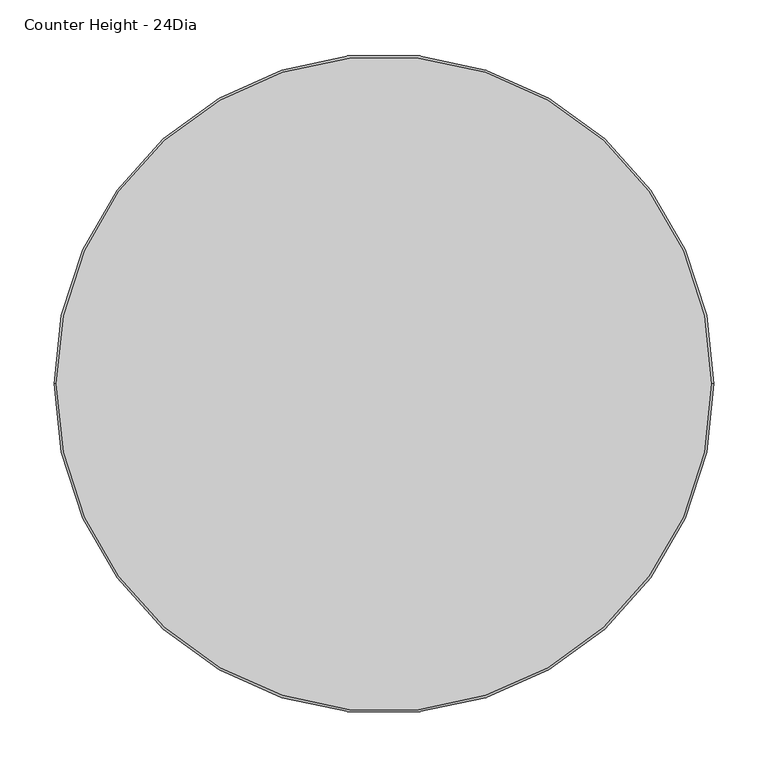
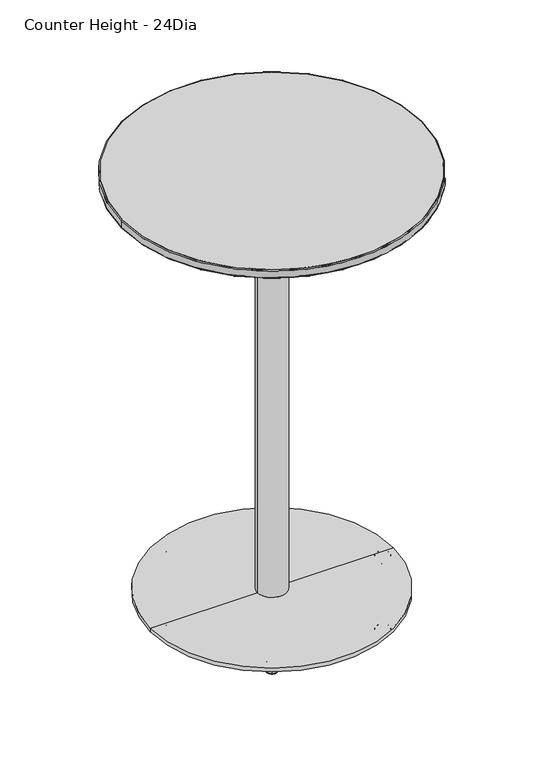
"""IFC4 building model written with IfcOpenShell, lengths in millimetres: furniture geometry, Coalesse_AM_Table_Occasional_Montara650Table_CafeHeight_Round : Counter Height - 24Dia."""

from ifc_helpers import new_model, si_unit, point, frame, origin, origin_with_axes, origin_2d, place, context, project, spatial, polyline, circle_curve, ellipse_curve, trimmed, segment, composite_curve, outline, extrude, source, transform, mapped, element, save
from ifc_brep_helpers import plane_surface, cylinder_surface, revolved_surface, advanced_brep


def counter_height_24dia_68ba56fe(model_context):
    return source(origin(), model_context, "Body", "SolidModel", [
        advanced_brep(
        [(-112.4946772, 194.8464965, 0.0), (-117.6867095, 203.8393602, 0.0), (-107.302645, 185.8536329, 0.0), (-118.0731448, 204.5086859, 0.5718943), (-106.9162096, 185.1843072, 0.5718943), (-119.6988534, 207.3244957, 11.2068005), (-105.290501, 182.3684973, 11.2068005), (-119.4053894, 206.8162011, 11.9999882), (-105.5839651, 182.8767919, 11.9999882), (-112.4946772, 194.8464965, 11.9999882)],
        [
            (0, 1),
            (1, 2, circle_curve(frame((-112.4946772, 194.8464965, 0.0), z_axis=(0.0, 0.0, -1.0), x_axis=(-0.5000000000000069, 0.8660254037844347, 0.0)), 10.3840645)),
            (2, 0),
            (2, 1, circle_curve(frame((-112.4946772, 194.8464965, 0.0), z_axis=(0.0, 0.0, -1.0), x_axis=(-0.5000000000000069, 0.8660254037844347, 0.0)), 10.3840645)),
            (1, 3, circle_curve(frame((-117.6867095, 203.8393602, 0.8081846), z_axis=(0.8660254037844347, 0.5000000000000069, 0.0), x_axis=(-0.5000000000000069, 0.8660254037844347, 0.0)), 0.8081846)),
            (3, 4, circle_curve(frame((-112.4946772, 194.8464965, 0.5718943), z_axis=(0.0, 0.0, -1.0), x_axis=(-0.5000000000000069, 0.8660254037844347, 0.0)), 11.1569353)),
            (4, 2, circle_curve(frame((-107.302645, 185.8536329, 0.8081846), z_axis=(0.866025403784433, 0.5000000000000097, 0.0), x_axis=(0.5000000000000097, -0.866025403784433, 0.0)), 0.8081846)),
            (4, 3, circle_curve(frame((-112.4946772, 194.8464965, 0.5718943), z_axis=(0.0, 0.0, -1.0), x_axis=(-0.5000000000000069, 0.8660254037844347, 0.0)), 11.1569353)),
            (3, 5),
            (5, 6, circle_curve(frame((-112.4946772, 194.8464965, 11.2068005), z_axis=(0.0, 0.0, -1.0), x_axis=(-0.5000000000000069, 0.8660254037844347, 0.0)), 14.4083524)),
            (6, 4),
            (6, 5, circle_curve(frame((-112.4946772, 194.8464965, 11.2068005), z_axis=(0.0, 0.0, -1.0), x_axis=(-0.5000000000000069, 0.8660254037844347, 0.0)), 14.4083524)),
            (5, 7, circle_curve(frame((-119.4053894, 206.8162011, 11.3862424), z_axis=(0.8660254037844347, 0.5000000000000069, 0.0), x_axis=(-0.5000000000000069, 0.8660254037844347, 0.0)), 0.6137458)),
            (7, 8, circle_curve(frame((-112.4946772, 194.8464965, 11.9999882), z_axis=(0.0, 0.0, -1.0), x_axis=(-0.5000000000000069, 0.8660254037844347, 0.0)), 13.8214243)),
            (8, 6, circle_curve(frame((-105.5839651, 182.8767919, 11.3862424), z_axis=(0.866025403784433, 0.5000000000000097, 0.0), x_axis=(0.5000000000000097, -0.866025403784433, 0.0)), 0.6137458)),
            (8, 7, circle_curve(frame((-112.4946772, 194.8464965, 11.9999882), z_axis=(0.0, 0.0, -1.0), x_axis=(-0.5000000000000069, 0.8660254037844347, 0.0)), 13.8214243)),
            (7, 9),
            (9, 8),
        ],
        [
            plane_surface(frame((-112.4946772, 194.8464965, 0.0), z_axis=(0.0, 0.0, -1.0), x_axis=(-0.5000000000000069, 0.8660254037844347, 0.0))),
            revolved_surface(trimmed(ellipse_curve(frame((-117.6867095, 203.8393602, 0.8081846), z_axis=(-0.8660254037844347, -0.5000000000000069, 0.0), x_axis=(-0.5000000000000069, 0.8660254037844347, 0.0)), 0.8081846, 0.8081846), [point((-118.0731448, 204.5086859, 0.5718943))], [point((-117.6867095, 203.8393602, 0.0))], True, "CARTESIAN"), (-112.4946772, 194.8464965, 12.2086845), (0.0, 0.0, -1.0)),
            revolved_surface(polyline([(-119.6988534, 207.3244957, 11.2068005), (-118.0731448, 204.5086859, 0.5718943)]), (-112.4946772, 194.8464965, 12.2086845), (0.0, 0.0, -1.0)),
            revolved_surface(trimmed(ellipse_curve(frame((-119.4053894, 206.8162011, 11.3862424), z_axis=(-0.8660254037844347, -0.5000000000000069, 0.0), x_axis=(-0.5000000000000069, 0.8660254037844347, 0.0)), 0.6137458, 0.6137458), [point((-119.4053894, 206.8162011, 11.9999882))], [point((-119.6988534, 207.3244957, 11.2068005))], True, "CARTESIAN"), (-112.4946772, 194.8464965, 12.2086845), (0.0, 0.0, -1.0)),
            plane_surface(frame((-112.4946772, 194.8464965, 11.9999882), z_axis=(0.0, 0.0, 1.0), x_axis=(-0.5000000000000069, 0.8660254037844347, 0.0))),
        ],
        [
            (0, [[1, 2, 3]]),
            (0, [[-3, 4, -1]]),
            (1, [[-2, 5, 6, 7]]),
            (1, [[-4, -7, 8, -5]]),
            (2, [[-6, 9, 10, 11]]),
            (2, [[-8, -11, 12, -9]]),
            (3, [[-10, 13, 14, 15]]),
            (3, [[-12, -15, 16, -13]]),
            (4, [[-14, 17, 18]]),
            (4, [[-16, -18, -17]]),
        ],
    ),
        advanced_brep(
        [(107.302645, -185.8536329, 0.0), (117.6867095, -203.8393602, 0.0), (112.4946772, -194.8464965, 0.0), (106.9162096, -185.1843072, 0.5718943), (118.0731448, -204.5086859, 0.5718943), (105.290501, -182.3684973, 11.2068005), (119.6988534, -207.3244957, 11.2068005), (105.5839651, -182.8767919, 11.9999882), (119.4053894, -206.8162011, 11.9999882), (112.4946772, -194.8464965, 11.9999882)],
        [
            (0, 1, circle_curve(frame((112.4946772, -194.8464965, 0.0), z_axis=(0.0, 0.0, -1.0), x_axis=(0.5000000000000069, -0.8660254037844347, 0.0)), 10.3840645)),
            (1, 2),
            (2, 0),
            (1, 0, circle_curve(frame((112.4946772, -194.8464965, 0.0), z_axis=(0.0, 0.0, -1.0), x_axis=(0.5000000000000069, -0.8660254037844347, 0.0)), 10.3840645)),
            (3, 4, circle_curve(frame((112.4946772, -194.8464965, 0.5718943), z_axis=(0.0, 0.0, -1.0), x_axis=(0.5000000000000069, -0.8660254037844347, 0.0)), 11.1569353)),
            (4, 1, circle_curve(frame((117.6867095, -203.8393602, 0.8081846), z_axis=(0.8660254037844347, 0.5000000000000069, 0.0), x_axis=(0.5000000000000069, -0.8660254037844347, 0.0)), 0.8081846)),
            (0, 3, circle_curve(frame((107.302645, -185.8536329, 0.8081846), z_axis=(0.8660254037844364, 0.5000000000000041, 0.0), x_axis=(-0.5000000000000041, 0.8660254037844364, 0.0)), 0.8081846)),
            (4, 3, circle_curve(frame((112.4946772, -194.8464965, 0.5718943), z_axis=(0.0, 0.0, -1.0), x_axis=(0.5000000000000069, -0.8660254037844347, 0.0)), 11.1569353)),
            (5, 6, circle_curve(frame((112.4946772, -194.8464965, 11.2068005), z_axis=(0.0, 0.0, -1.0), x_axis=(0.5000000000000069, -0.8660254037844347, 0.0)), 14.4083524)),
            (6, 4),
            (3, 5),
            (6, 5, circle_curve(frame((112.4946772, -194.8464965, 11.2068005), z_axis=(0.0, 0.0, -1.0), x_axis=(0.5000000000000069, -0.8660254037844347, 0.0)), 14.4083524)),
            (7, 8, circle_curve(frame((112.4946772, -194.8464965, 11.9999882), z_axis=(0.0, 0.0, -1.0), x_axis=(0.5000000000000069, -0.8660254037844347, 0.0)), 13.8214243)),
            (8, 6, circle_curve(frame((119.4053894, -206.8162011, 11.3862424), z_axis=(0.8660254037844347, 0.5000000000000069, 0.0), x_axis=(0.5000000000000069, -0.8660254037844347, 0.0)), 0.6137458)),
            (5, 7, circle_curve(frame((105.5839651, -182.8767919, 11.3862424), z_axis=(0.8660254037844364, 0.5000000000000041, 0.0), x_axis=(-0.5000000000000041, 0.8660254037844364, 0.0)), 0.6137458)),
            (8, 7, circle_curve(frame((112.4946772, -194.8464965, 11.9999882), z_axis=(0.0, 0.0, -1.0), x_axis=(0.5000000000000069, -0.8660254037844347, 0.0)), 13.8214243)),
            (9, 8),
            (7, 9),
        ],
        [
            plane_surface(frame((112.4946772, -194.8464965, 0.0), z_axis=(0.0, 0.0, -1.0), x_axis=(0.5000000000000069, -0.8660254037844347, 0.0))),
            revolved_surface(trimmed(ellipse_curve(frame((117.6867095, -203.8393602, 0.8081846), z_axis=(-0.8660254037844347, -0.5000000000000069, 0.0), x_axis=(0.5000000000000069, -0.8660254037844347, 0.0)), 0.8081846, 0.8081846), [point((117.6867095, -203.8393602, 0.0))], [point((118.0731448, -204.5086859, 0.5718943))], True, "CARTESIAN"), (112.4946772, -194.8464965, 12.2086845), (0.0, 0.0, 1.0)),
            revolved_surface(polyline([(118.0731448, -204.5086859, 0.5718943), (119.6988534, -207.3244957, 11.2068005)]), (112.4946772, -194.8464965, 12.2086845), (0.0, 0.0, 1.0)),
            revolved_surface(trimmed(ellipse_curve(frame((119.4053894, -206.8162011, 11.3862424), z_axis=(-0.8660254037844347, -0.5000000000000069, 0.0), x_axis=(0.5000000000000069, -0.8660254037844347, 0.0)), 0.6137458, 0.6137458), [point((119.6988534, -207.3244957, 11.2068005))], [point((119.4053894, -206.8162011, 11.9999882))], True, "CARTESIAN"), (112.4946772, -194.8464965, 12.2086845), (0.0, 0.0, 1.0)),
            plane_surface(frame((112.4946772, -194.8464965, 11.9999882), z_axis=(0.0, 0.0, 1.0), x_axis=(0.5000000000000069, -0.8660254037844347, 0.0))),
        ],
        [
            (0, [[1, 2, 3]]),
            (0, [[4, -3, -2]]),
            (1, [[5, 6, -1, 7]]),
            (1, [[8, -7, -4, -6]]),
            (2, [[9, 10, -5, 11]]),
            (2, [[12, -11, -8, -10]]),
            (3, [[13, 14, -9, 15]]),
            (3, [[16, -15, -12, -14]]),
            (4, [[17, -13, 18]]),
            (4, [[-18, -16, -17]]),
        ],
    ),
        advanced_brep(
        [(104.863739, 174.0655874, 0.0), (115.2478035, 192.0513148, 0.0), (110.0557713, 183.0584511, 0.0), (104.4773036, 173.3962617, 0.5718943), (115.6342389, 192.7206405, 0.5718943), (102.8515951, 170.5804519, 11.2068005), (117.2599475, 195.5364503, 11.2068005), (103.1450591, 171.0887465, 11.9999882), (116.9664834, 195.0281557, 11.9999882), (110.0557713, 183.0584511, 11.9999882)],
        [
            (0, 1, circle_curve(frame((110.0557713, 183.0584511, 0.0), z_axis=(0.0, 0.0, -1.0), x_axis=(0.5000000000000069, 0.8660254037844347, 0.0)), 10.3840645)),
            (1, 2),
            (2, 0),
            (1, 0, circle_curve(frame((110.0557713, 183.0584511, 0.0), z_axis=(0.0, 0.0, -1.0), x_axis=(0.5000000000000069, 0.8660254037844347, 0.0)), 10.3840645)),
            (3, 4, circle_curve(frame((110.0557713, 183.0584511, 0.5718943), z_axis=(0.0, 0.0, -1.0), x_axis=(0.5000000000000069, 0.8660254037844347, 0.0)), 11.1569353)),
            (4, 1, circle_curve(frame((115.2478035, 192.0513148, 0.8081846), z_axis=(-0.8660254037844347, 0.5000000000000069, 0.0), x_axis=(0.5000000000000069, 0.8660254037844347, 0.0)), 0.8081846)),
            (0, 3, circle_curve(frame((104.863739, 174.0655874, 0.8081846), z_axis=(-0.866025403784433, 0.5000000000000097, 0.0), x_axis=(-0.5000000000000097, -0.866025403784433, 0.0)), 0.8081846)),
            (4, 3, circle_curve(frame((110.0557713, 183.0584511, 0.5718943), z_axis=(0.0, 0.0, -1.0), x_axis=(0.5000000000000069, 0.8660254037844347, 0.0)), 11.1569353)),
            (5, 6, circle_curve(frame((110.0557713, 183.0584511, 11.2068005), z_axis=(0.0, 0.0, -1.0), x_axis=(0.5000000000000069, 0.8660254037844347, 0.0)), 14.4083524)),
            (6, 4),
            (3, 5),
            (6, 5, circle_curve(frame((110.0557713, 183.0584511, 11.2068005), z_axis=(0.0, 0.0, -1.0), x_axis=(0.5000000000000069, 0.8660254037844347, 0.0)), 14.4083524)),
            (7, 8, circle_curve(frame((110.0557713, 183.0584511, 11.9999882), z_axis=(0.0, 0.0, -1.0), x_axis=(0.5000000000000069, 0.8660254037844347, 0.0)), 13.8214243)),
            (8, 6, circle_curve(frame((116.9664834, 195.0281557, 11.3862424), z_axis=(-0.8660254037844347, 0.5000000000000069, 0.0), x_axis=(0.5000000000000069, 0.8660254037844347, 0.0)), 0.6137458)),
            (5, 7, circle_curve(frame((103.1450591, 171.0887465, 11.3862424), z_axis=(-0.866025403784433, 0.5000000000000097, 0.0), x_axis=(-0.5000000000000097, -0.866025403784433, 0.0)), 0.6137458)),
            (8, 7, circle_curve(frame((110.0557713, 183.0584511, 11.9999882), z_axis=(0.0, 0.0, -1.0), x_axis=(0.5000000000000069, 0.8660254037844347, 0.0)), 13.8214243)),
            (9, 8),
            (7, 9),
        ],
        [
            plane_surface(frame((110.0557713, 183.0584511, 0.0), z_axis=(0.0, 0.0, -1.0), x_axis=(0.5000000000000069, 0.8660254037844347, 0.0))),
            revolved_surface(trimmed(ellipse_curve(frame((115.2478035, 192.0513148, 0.8081846), z_axis=(0.8660254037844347, -0.5000000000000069, 0.0), x_axis=(0.5000000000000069, 0.8660254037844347, 0.0)), 0.8081846, 0.8081846), [point((115.2478035, 192.0513148, 0.0))], [point((115.6342389, 192.7206405, 0.5718943))], True, "CARTESIAN"), (110.0557713, 183.0584511, 12.2086845), (0.0, 0.0, 1.0)),
            revolved_surface(polyline([(115.6342389, 192.7206405, 0.5718943), (117.2599475, 195.5364503, 11.2068005)]), (110.0557713, 183.0584511, 12.2086845), (0.0, 0.0, 1.0)),
            revolved_surface(trimmed(ellipse_curve(frame((116.9664834, 195.0281557, 11.3862424), z_axis=(0.8660254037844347, -0.5000000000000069, 0.0), x_axis=(0.5000000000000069, 0.8660254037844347, 0.0)), 0.6137458, 0.6137458), [point((117.2599475, 195.5364503, 11.2068005))], [point((116.9664834, 195.0281557, 11.9999882))], True, "CARTESIAN"), (110.0557713, 183.0584511, 12.2086845), (0.0, 0.0, 1.0)),
            plane_surface(frame((110.0557713, 183.0584511, 11.9999882), z_axis=(0.0, 0.0, 1.0), x_axis=(0.5000000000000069, 0.8660254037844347, 0.0))),
        ],
        [
            (0, [[1, 2, 3]]),
            (0, [[4, -3, -2]]),
            (1, [[5, 6, -1, 7]]),
            (1, [[8, -7, -4, -6]]),
            (2, [[9, 10, -5, 11]]),
            (2, [[12, -11, -8, -10]]),
            (3, [[13, 14, -9, 15]]),
            (3, [[16, -15, -12, -14]]),
            (4, [[17, -13, 18]]),
            (4, [[-18, -16, -17]]),
        ],
    ),
        advanced_brep(
        [(-112.4946772, -194.8464965, 0.0), (-117.6867095, -203.8393602, 0.0), (-107.302645, -185.8536329, 0.0), (-118.0731448, -204.5086859, 0.5718943), (-106.9162096, -185.1843072, 0.5718943), (-119.6988534, -207.3244957, 11.2068005), (-105.290501, -182.3684973, 11.2068005), (-119.4053894, -206.8162011, 11.9999882), (-105.5839651, -182.8767919, 11.9999882), (-112.4946772, -194.8464965, 11.9999882)],
        [
            (0, 1),
            (1, 2, circle_curve(frame((-112.4946772, -194.8464965, 0.0), z_axis=(0.0, 0.0, -1.0), x_axis=(-0.5000000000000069, -0.8660254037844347, 0.0)), 10.3840645)),
            (2, 0),
            (2, 1, circle_curve(frame((-112.4946772, -194.8464965, 0.0), z_axis=(0.0, 0.0, -1.0), x_axis=(-0.5000000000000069, -0.8660254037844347, 0.0)), 10.3840645)),
            (1, 3, circle_curve(frame((-117.6867095, -203.8393602, 0.8081846), z_axis=(-0.8660254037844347, 0.5000000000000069, 0.0), x_axis=(-0.5000000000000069, -0.8660254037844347, 0.0)), 0.8081846)),
            (3, 4, circle_curve(frame((-112.4946772, -194.8464965, 0.5718943), z_axis=(0.0, 0.0, -1.0), x_axis=(-0.5000000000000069, -0.8660254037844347, 0.0)), 11.1569353)),
            (4, 2, circle_curve(frame((-107.302645, -185.8536329, 0.8081846), z_axis=(-0.8660254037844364, 0.5000000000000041, 0.0), x_axis=(0.5000000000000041, 0.8660254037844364, 0.0)), 0.8081846)),
            (4, 3, circle_curve(frame((-112.4946772, -194.8464965, 0.5718943), z_axis=(0.0, 0.0, -1.0), x_axis=(-0.5000000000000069, -0.8660254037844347, 0.0)), 11.1569353)),
            (3, 5),
            (5, 6, circle_curve(frame((-112.4946772, -194.8464965, 11.2068005), z_axis=(0.0, 0.0, -1.0), x_axis=(-0.5000000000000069, -0.8660254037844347, 0.0)), 14.4083524)),
            (6, 4),
            (6, 5, circle_curve(frame((-112.4946772, -194.8464965, 11.2068005), z_axis=(0.0, 0.0, -1.0), x_axis=(-0.5000000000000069, -0.8660254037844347, 0.0)), 14.4083524)),
            (5, 7, circle_curve(frame((-119.4053894, -206.8162011, 11.3862424), z_axis=(-0.8660254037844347, 0.5000000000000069, 0.0), x_axis=(-0.5000000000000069, -0.8660254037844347, 0.0)), 0.6137458)),
            (7, 8, circle_curve(frame((-112.4946772, -194.8464965, 11.9999882), z_axis=(0.0, 0.0, -1.0), x_axis=(-0.5000000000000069, -0.8660254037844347, 0.0)), 13.8214243)),
            (8, 6, circle_curve(frame((-105.5839651, -182.8767919, 11.3862424), z_axis=(-0.8660254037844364, 0.5000000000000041, 0.0), x_axis=(0.5000000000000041, 0.8660254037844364, 0.0)), 0.6137458)),
            (8, 7, circle_curve(frame((-112.4946772, -194.8464965, 11.9999882), z_axis=(0.0, 0.0, -1.0), x_axis=(-0.5000000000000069, -0.8660254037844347, 0.0)), 13.8214243)),
            (7, 9),
            (9, 8),
        ],
        [
            plane_surface(frame((-112.4946772, -194.8464965, 0.0), z_axis=(0.0, 0.0, -1.0), x_axis=(-0.5000000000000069, -0.8660254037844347, 0.0))),
            revolved_surface(trimmed(ellipse_curve(frame((-117.6867095, -203.8393602, 0.8081846), z_axis=(0.8660254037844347, -0.5000000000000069, 0.0), x_axis=(-0.5000000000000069, -0.8660254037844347, 0.0)), 0.8081846, 0.8081846), [point((-118.0731448, -204.5086859, 0.5718943))], [point((-117.6867095, -203.8393602, 0.0))], True, "CARTESIAN"), (-112.4946772, -194.8464965, 12.2086845), (0.0, 0.0, -1.0)),
            revolved_surface(polyline([(-119.6988534, -207.3244957, 11.2068005), (-118.0731448, -204.5086859, 0.5718943)]), (-112.4946772, -194.8464965, 12.2086845), (0.0, 0.0, -1.0)),
            revolved_surface(trimmed(ellipse_curve(frame((-119.4053894, -206.8162011, 11.3862424), z_axis=(0.8660254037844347, -0.5000000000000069, 0.0), x_axis=(-0.5000000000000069, -0.8660254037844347, 0.0)), 0.6137458, 0.6137458), [point((-119.4053894, -206.8162011, 11.9999882))], [point((-119.6988534, -207.3244957, 11.2068005))], True, "CARTESIAN"), (-112.4946772, -194.8464965, 12.2086845), (0.0, 0.0, -1.0)),
            plane_surface(frame((-112.4946772, -194.8464965, 11.9999882), z_axis=(0.0, 0.0, 1.0), x_axis=(-0.5000000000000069, -0.8660254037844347, 0.0))),
        ],
        [
            (0, [[1, 2, 3]]),
            (0, [[-3, 4, -1]]),
            (1, [[-2, 5, 6, 7]]),
            (1, [[-4, -7, 8, -5]]),
            (2, [[-6, 9, 10, 11]]),
            (2, [[-8, -11, 12, -9]]),
            (3, [[-10, 13, 14, 15]]),
            (3, [[-12, -15, 16, -13]]),
            (4, [[-14, 17, 18]]),
            (4, [[-16, -18, -17]]),
        ],
    ),
        advanced_brep(
        [(214.6052899, 0.0, 0.0), (235.3734189, 0.0, 0.0), (224.9893544, 0.0, 0.0), (213.8324192, 0.0, 0.5718943), (236.1462897, 0.0, 0.5718943), (210.5810021, 0.0, 11.2068005), (239.3977068, 0.0, 11.2068005), (211.1679301, 0.0, 11.9999882), (238.8107788, 0.0, 11.9999882), (224.9893544, 0.0, 11.9999882)],
        [
            (0, 1, circle_curve(frame((224.9893544, 0.0, 0.0), z_axis=(0.0, 0.0, -1.0), x_axis=(1.0, 0.0, 0.0)), 10.3840645)),
            (1, 2),
            (2, 0),
            (1, 0, circle_curve(frame((224.9893544, 0.0, 0.0), z_axis=(0.0, 0.0, -1.0), x_axis=(1.0, 0.0, 0.0)), 10.3840645)),
            (3, 4, circle_curve(frame((224.9893544, 0.0, 0.5718943), z_axis=(0.0, 0.0, -1.0), x_axis=(1.0, 0.0, 0.0)), 11.1569353)),
            (4, 1, circle_curve(frame((235.3734189, 0.0, 0.8081846), z_axis=(0.0, 1.0, 0.0), x_axis=(1.0, 0.0, 0.0)), 0.8081846)),
            (0, 3, circle_curve(frame((214.6052899, 0.0, 0.8081846), z_axis=(0.0, 1.0, 0.0), x_axis=(-1.0, 0.0, 0.0)), 0.8081846)),
            (4, 3, circle_curve(frame((224.9893544, 0.0, 0.5718943), z_axis=(0.0, 0.0, -1.0), x_axis=(1.0, 0.0, 0.0)), 11.1569353)),
            (5, 6, circle_curve(frame((224.9893544, 0.0, 11.2068005), z_axis=(0.0, 0.0, -1.0), x_axis=(1.0, 0.0, 0.0)), 14.4083524)),
            (6, 4),
            (3, 5),
            (6, 5, circle_curve(frame((224.9893544, 0.0, 11.2068005), z_axis=(0.0, 0.0, -1.0), x_axis=(1.0, 0.0, 0.0)), 14.4083524)),
            (7, 8, circle_curve(frame((224.9893544, 0.0, 11.9999882), z_axis=(0.0, 0.0, -1.0), x_axis=(1.0, 0.0, 0.0)), 13.8214243)),
            (8, 6, circle_curve(frame((238.8107788, 0.0, 11.3862424), z_axis=(0.0, 1.0, 0.0), x_axis=(1.0, 0.0, 0.0)), 0.6137458)),
            (5, 7, circle_curve(frame((211.1679301, 0.0, 11.3862424), z_axis=(0.0, 1.0, 0.0), x_axis=(-1.0, 0.0, 0.0)), 0.6137458)),
            (8, 7, circle_curve(frame((224.9893544, 0.0, 11.9999882), z_axis=(0.0, 0.0, -1.0), x_axis=(1.0, 0.0, 0.0)), 13.8214243)),
            (9, 8),
            (7, 9),
        ],
        [
            plane_surface(frame((224.9893544, 0.0, 0.0), z_axis=(0.0, 0.0, -1.0), x_axis=(1.0, 0.0, 0.0))),
            revolved_surface(trimmed(ellipse_curve(frame((235.3734189, 0.0, 0.8081846), z_axis=(0.0, -1.0, 0.0), x_axis=(1.0, 0.0, 0.0)), 0.8081846, 0.8081846), [point((235.3734189, 0.0, 0.0))], [point((236.1462897, 0.0, 0.5718943))], True, "CARTESIAN"), (224.9893544, 0.0, 12.2086845), (0.0, 0.0, 1.0)),
            revolved_surface(polyline([(236.1462897, 0.0, 0.5718943), (239.3977068, 0.0, 11.2068005)]), (224.9893544, 0.0, 12.2086845), (0.0, 0.0, 1.0)),
            revolved_surface(trimmed(ellipse_curve(frame((238.8107788, 0.0, 11.3862424), z_axis=(0.0, -1.0, 0.0), x_axis=(1.0, 0.0, 0.0)), 0.6137458, 0.6137458), [point((239.3977068, 0.0, 11.2068005))], [point((238.8107788, 0.0, 11.9999882))], True, "CARTESIAN"), (224.9893544, 0.0, 12.2086845), (0.0, 0.0, 1.0)),
            plane_surface(frame((224.9893544, 0.0, 11.9999882), z_axis=(0.0, 0.0, 1.0), x_axis=(1.0, 0.0, 0.0))),
        ],
        [
            (0, [[1, 2, 3]]),
            (0, [[4, -3, -2]]),
            (1, [[5, 6, -1, 7]]),
            (1, [[8, -7, -4, -6]]),
            (2, [[9, 10, -5, 11]]),
            (2, [[12, -11, -8, -10]]),
            (3, [[13, 14, -9, 15]]),
            (3, [[16, -15, -12, -14]]),
            (4, [[17, -13, 18]]),
            (4, [[-18, -16, -17]]),
        ],
    ),
        advanced_brep(
        [(-258.064, 0.0, 884.430027), (258.064, 0.0, 884.430027), (-302.768, 0.0, 896.695891), (302.768, 0.0, 896.695891)],
        [
            (0, 1, circle_curve(frame((0.0, 0.0, 884.430027), z_axis=(0.0, 0.0, -1.0), x_axis=(-1.0, 0.0, 0.0)), 258.064)),
            (1, 0, circle_curve(frame((0.0, 0.0, 884.430027), z_axis=(0.0, 0.0, -1.0), x_axis=(1.0, 0.0, 0.0)), 258.064)),
            (2, 3, circle_curve(frame((0.0, 0.0, 896.695891), z_axis=(0.0, 0.0, 1.0), x_axis=(1.0, 0.0, 0.0)), 302.768)),
            (3, 2, circle_curve(frame((0.0, 0.0, 896.695891), z_axis=(0.0, 0.0, 1.0), x_axis=(-1.0, 0.0, 0.0)), 302.768)),
            (2, 0),
            (1, 3),
        ],
        [
            plane_surface(frame((0.0, 0.0, 884.430027), z_axis=(0.0, 0.0, -1.0), x_axis=(0.0, -1.0, 0.0))),
            plane_surface(frame((0.0, 0.0, 896.695891), z_axis=(0.0, 0.0, 1.0), x_axis=(0.0, -1.0, 0.0))),
            revolved_surface(polyline([(258.0639998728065, 0.0, 884.430027), (302.768, 0.0, 896.695891)]), (0.0, 0.0, 813.6225396), (0.0, 0.0, 1.0)),
            revolved_surface(polyline([(-258.0639998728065, 0.0, 884.430027), (-302.768, 0.0, 896.695891)]), (0.0, 0.0, 813.6225396), (0.0, 0.0, 1.0)),
        ],
        [
            (0, [[1, 2]]),
            (1, [[3, 4]]),
            (2, [[-3, 5, -2, 6]]),
            (3, [[-4, -6, -1, -5]]),
        ],
    ),
        extrude(outline(composite_curve([segment(trimmed(circle_curve(origin_2d(), 302.768), [point((-302.768, 0.0))], [point((302.768, 0.0))], False, "CARTESIAN"), True, "CONTINUOUS"), segment(trimmed(circle_curve(origin_2d(), 302.768), [point((302.768, 0.0))], [point((-302.768, 0.0))], False, "CARTESIAN"), True, "CONTINUOUS")], self_intersect=False)), frame((0.0, 0.0, 896.695891), z_axis=(0.0, 0.0, 1.0), x_axis=(1.0, 0.0, 0.0)), (0.0, 0.0, 1.0), 17.704109),
        advanced_brep(
        [(-224.9893544, 0.0, 0.0), (-235.3734189, 0.0, 0.0), (-214.6052899, 0.0, 0.0), (-236.1462897, 0.0, 0.5718943), (-213.8324192, 0.0, 0.5718943), (-239.3977068, 0.0, 11.2068005), (-210.5810021, 0.0, 11.2068005), (-238.8107788, 0.0, 11.9999882), (-211.1679301, 0.0, 11.9999882), (-224.9893544, 0.0, 11.9999882)],
        [
            (0, 1),
            (1, 2, circle_curve(frame((-224.9893544, 0.0, 0.0), z_axis=(0.0, 0.0, -1.0), x_axis=(-1.0, 0.0, 0.0)), 10.3840645)),
            (2, 0),
            (2, 1, circle_curve(frame((-224.9893544, 0.0, 0.0), z_axis=(0.0, 0.0, -1.0), x_axis=(-1.0, 0.0, 0.0)), 10.3840645)),
            (1, 3, circle_curve(frame((-235.3734189, 0.0, 0.8081846), z_axis=(0.0, 1.0, 0.0), x_axis=(-1.0, 0.0, 0.0)), 0.8081846)),
            (3, 4, circle_curve(frame((-224.9893544, 0.0, 0.5718943), z_axis=(0.0, 0.0, -1.0), x_axis=(-1.0, 0.0, 0.0)), 11.1569353)),
            (4, 2, circle_curve(frame((-214.6052899, 0.0, 0.8081846), z_axis=(0.0, 1.0, 0.0), x_axis=(1.0, 0.0, 0.0)), 0.8081846)),
            (4, 3, circle_curve(frame((-224.9893544, 0.0, 0.5718943), z_axis=(0.0, 0.0, -1.0), x_axis=(-1.0, 0.0, 0.0)), 11.1569353)),
            (3, 5),
            (5, 6, circle_curve(frame((-224.9893544, 0.0, 11.2068005), z_axis=(0.0, 0.0, -1.0), x_axis=(-1.0, 0.0, 0.0)), 14.4083524)),
            (6, 4),
            (6, 5, circle_curve(frame((-224.9893544, 0.0, 11.2068005), z_axis=(0.0, 0.0, -1.0), x_axis=(-1.0, 0.0, 0.0)), 14.4083524)),
            (5, 7, circle_curve(frame((-238.8107788, 0.0, 11.3862424), z_axis=(0.0, 1.0, 0.0), x_axis=(-1.0, 0.0, 0.0)), 0.6137458)),
            (7, 8, circle_curve(frame((-224.9893544, 0.0, 11.9999882), z_axis=(0.0, 0.0, -1.0), x_axis=(-1.0, 0.0, 0.0)), 13.8214243)),
            (8, 6, circle_curve(frame((-211.1679301, 0.0, 11.3862424), z_axis=(0.0, 1.0, 0.0), x_axis=(1.0, 0.0, 0.0)), 0.6137458)),
            (8, 7, circle_curve(frame((-224.9893544, 0.0, 11.9999882), z_axis=(0.0, 0.0, -1.0), x_axis=(-1.0, 0.0, 0.0)), 13.8214243)),
            (7, 9),
            (9, 8),
        ],
        [
            plane_surface(frame((-224.9893544, 0.0, 0.0), z_axis=(0.0, 0.0, -1.0), x_axis=(-1.0, 0.0, 0.0))),
            revolved_surface(trimmed(ellipse_curve(frame((-235.3734189, 0.0, 0.8081846), z_axis=(0.0, -1.0, 0.0), x_axis=(-1.0, 0.0, 0.0)), 0.8081846, 0.8081846), [point((-236.1462897, 0.0, 0.5718943))], [point((-235.3734189, 0.0, 0.0))], True, "CARTESIAN"), (-224.9893544, 0.0, 12.2086845), (0.0, 0.0, -1.0)),
            revolved_surface(polyline([(-239.3977068, 0.0, 11.2068005), (-236.1462897, 0.0, 0.5718943)]), (-224.9893544, 0.0, 12.2086845), (0.0, 0.0, -1.0)),
            revolved_surface(trimmed(ellipse_curve(frame((-238.8107788, 0.0, 11.3862424), z_axis=(0.0, -1.0, 0.0), x_axis=(-1.0, 0.0, 0.0)), 0.6137458, 0.6137458), [point((-238.8107788, 0.0, 11.9999882))], [point((-239.3977068, 0.0, 11.2068005))], True, "CARTESIAN"), (-224.9893544, 0.0, 12.2086845), (0.0, 0.0, -1.0)),
            plane_surface(frame((-224.9893544, 0.0, 11.9999882), z_axis=(0.0, 0.0, 1.0), x_axis=(-1.0, 0.0, 0.0))),
        ],
        [
            (0, [[1, 2, 3]]),
            (0, [[-3, 4, -1]]),
            (1, [[-2, 5, 6, 7]]),
            (1, [[-4, -7, 8, -5]]),
            (2, [[-6, 9, 10, 11]]),
            (2, [[-8, -11, 12, -9]]),
            (3, [[-10, 13, 14, 15]]),
            (3, [[-12, -15, 16, -13]]),
            (4, [[-14, 17, 18]]),
            (4, [[-16, -18, -17]]),
        ],
    ),
        advanced_brep(
        [(304.8438665, 0.0, 898.6278467), (-304.8438665, 0.0, 898.6278467), (-302.768, 0.0, 896.695891), (302.768, 0.0, 896.695891), (304.8438665, 0.0, 912.3999283), (-304.8438665, 0.0, 912.3999283), (302.768, 0.0, 914.4), (-302.768, 0.0, 914.4)],
        [
            (0, 1, circle_curve(frame((0.0, 0.0, 898.6278467), z_axis=(0.0, 0.0, -1.0), x_axis=(-1.0, 0.0, 0.0)), 304.8438665)),
            (1, 2, circle_curve(frame((-302.9069224, 0.0, 898.6278467), z_axis=(0.0, -1.0, 0.0), x_axis=(1.0, 0.0, 0.0)), 1.9369441)),
            (2, 3, circle_curve(frame((0.0, 0.0, 896.695891), z_axis=(0.0, 0.0, 1.0), x_axis=(-1.0, 0.0, 0.0)), 302.768)),
            (3, 0, circle_curve(frame((302.9069224, 0.0, 898.6278467), z_axis=(0.0, -1.0, 0.0), x_axis=(-1.0, 0.0, 0.0)), 1.9369441)),
            (4, 5, circle_curve(frame((0.0, 0.0, 912.3999283), z_axis=(0.0, 0.0, -1.0), x_axis=(-1.0, 0.0, 0.0)), 304.8438665)),
            (5, 1),
            (0, 4),
            (6, 7, circle_curve(frame((0.0, 0.0, 914.4), z_axis=(0.0, 0.0, -1.0), x_axis=(-1.0, 0.0, 0.0)), 302.768)),
            (7, 5, circle_curve(frame((-302.8424111, 0.0, 912.3999283), z_axis=(0.0, -1.0, 0.0), x_axis=(1.0, 0.0, 0.0)), 2.0014554)),
            (4, 6, circle_curve(frame((302.8424111, 0.0, 912.3999283), z_axis=(0.0, -1.0, 0.0), x_axis=(-1.0, 0.0, 0.0)), 2.0014554)),
            (2, 7),
            (6, 3),
            (1, 0, circle_curve(frame((0.0, 0.0, 898.6278467), z_axis=(0.0, 0.0, -1.0), x_axis=(1.0, 0.0, 0.0)), 304.8438665)),
            (3, 2, circle_curve(frame((0.0, 0.0, 896.695891), z_axis=(0.0, 0.0, 1.0), x_axis=(1.0, 0.0, 0.0)), 302.768)),
            (5, 4, circle_curve(frame((0.0, 0.0, 912.3999283), z_axis=(0.0, 0.0, -1.0), x_axis=(1.0, 0.0, 0.0)), 304.8438665)),
            (7, 6, circle_curve(frame((0.0, 0.0, 914.4), z_axis=(0.0, 0.0, -1.0), x_axis=(1.0, 0.0, 0.0)), 302.768)),
        ],
        [
            revolved_surface(trimmed(ellipse_curve(frame((-302.9069224, 0.0, 898.6278467), z_axis=(0.0, 1.0, 0.0), x_axis=(1.0, 0.0, 0.0)), 1.9369441, 1.9369441), [point((-302.768, 0.0, 896.695891))], [point((-304.8438665, 0.0, 898.6278467))], True, "CARTESIAN"), (0.0, 0.0, 0.0), (0.0, 0.0, 1.0)),
            cylinder_surface(frame((0.0, 0.0, 0.0), z_axis=(0.0, 0.0, 1.0), x_axis=(-1.0, 0.0, 0.0)), 304.8438665),
            revolved_surface(trimmed(ellipse_curve(frame((-302.8424111, 0.0, 912.3999283), z_axis=(0.0, 1.0, 0.0), x_axis=(1.0, 0.0, 0.0)), 2.0014554, 2.0014554), [point((-304.8438665, 0.0, 912.3999283))], [point((-302.768, 0.0, 914.4))], True, "CARTESIAN"), (0.0, 0.0, 0.0), (0.0, 0.0, 1.0)),
            revolved_surface(polyline([(-302.768, 0.0, 914.4), (-302.768, 0.0, 896.695891)]), (0.0, 0.0, 0.0), (0.0, 0.0, 1.0)),
            revolved_surface(trimmed(ellipse_curve(frame((302.9069224, 0.0, 898.6278467), z_axis=(0.0, -1.0, 0.0), x_axis=(-1.0, 0.0, 0.0)), 1.9369441, 1.9369441), [point((302.768, 0.0, 896.695891))], [point((304.8438665, 0.0, 898.6278467))], True, "CARTESIAN"), (0.0, 0.0, 0.0), (0.0, 0.0, 1.0)),
            cylinder_surface(origin_with_axes(), 304.8438665),
            revolved_surface(trimmed(ellipse_curve(frame((302.8424111, 0.0, 912.3999283), z_axis=(0.0, -1.0, 0.0), x_axis=(-1.0, 0.0, 0.0)), 2.0014554, 2.0014554), [point((304.8438665, 0.0, 912.3999283))], [point((302.768, 0.0, 914.4))], True, "CARTESIAN"), (0.0, 0.0, 0.0), (0.0, 0.0, 1.0)),
            revolved_surface(polyline([(302.768, 0.0, 914.4), (302.768, 0.0, 896.695891)]), (0.0, 0.0, 0.0), (0.0, 0.0, 1.0)),
        ],
        [
            (0, [[1, 2, 3, 4]]),
            (1, [[5, 6, -1, 7]]),
            (2, [[8, 9, -5, 10]]),
            (3, [[-3, 11, -8, 12]]),
            (4, [[13, -4, 14, -2]]),
            (5, [[15, -7, -13, -6]]),
            (6, [[16, -10, -15, -9]]),
            (7, [[-14, -12, -16, -11]]),
        ],
    ),
        advanced_brep(
        [(131.6004101, 0.0, 881.255027), (-131.6004101, 0.0, 881.255027), (-176.1626132, 0.0, 881.255027), (176.1626132, 0.0, 881.255027), (121.0488662, 0.0, 880.1460151), (-121.0488662, 0.0, 880.1460151), (48.7461809, 0.0, 865.4837029), (-48.7461809, 0.0, 865.4837029), (37.412985, 0.0, 865.4837029), (-37.412985, 0.0, 865.4837029), (29.5495828, 0.0, 19.9999965), (-29.5495828, 0.0, 19.9999965), (-29.5495828, 0.0, 877.2852036), (29.5495828, 0.0, 877.2852036), (246.3799842, 0.0, 19.9999965), (-246.3799842, 0.0, 19.9999965), (246.3799842, 0.0, 11.9999882), (-246.3799842, 0.0, 11.9999882), (0.0, 0.0, 11.9999882), (176.1626132, 0.0, 884.430027), (-176.1626132, 0.0, 884.430027), (0.0, 0.0, 884.430027), (33.3511087, 0.0, 866.9383874), (-33.3511087, 0.0, 866.9383874), (31.712334, 0.0, 877.2852036), (-31.712334, 0.0, 877.2852036)],
        [
            (0, 1, circle_curve(frame((0.0, 0.0, 881.255027), z_axis=(0.0, 0.0, 1.0), x_axis=(-1.0, 0.0, 0.0)), 131.6004101)),
            (1, 2),
            (2, 3, circle_curve(frame((0.0, 0.0, 881.255027), z_axis=(0.0, 0.0, -1.0), x_axis=(-1.0, 0.0, 0.0)), 176.1626132)),
            (3, 0),
            (1, 0, circle_curve(frame((0.0, 0.0, 881.255027), z_axis=(0.0, 0.0, 1.0), x_axis=(-1.0, 0.0, 0.0)), 131.6004101)),
            (3, 2, circle_curve(frame((0.0, 0.0, 881.255027), z_axis=(0.0, 0.0, -1.0), x_axis=(-1.0, 0.0, 0.0)), 176.1626132)),
            (4, 5, circle_curve(frame((0.0, 0.0, 880.1460151), z_axis=(0.0, 0.0, 1.0), x_axis=(-1.0, 0.0, 0.0)), 121.0488662)),
            (5, 1),
            (0, 4),
            (5, 4, circle_curve(frame((0.0, 0.0, 880.1460151), z_axis=(0.0, 0.0, 1.0), x_axis=(-1.0, 0.0, 0.0)), 121.0488662)),
            (6, 7, circle_curve(frame((0.0, 0.0, 865.4837029), z_axis=(0.0, 0.0, 1.0), x_axis=(-1.0, 0.0, 0.0)), 48.7461809)),
            (7, 5),
            (4, 6),
            (7, 6, circle_curve(frame((0.0, 0.0, 865.4837029), z_axis=(0.0, 0.0, 1.0), x_axis=(-1.0, 0.0, 0.0)), 48.7461809)),
            (8, 9, circle_curve(frame((0.0, 0.0, 865.4837029), z_axis=(0.0, 0.0, 1.0), x_axis=(-1.0, 0.0, 0.0)), 37.412985)),
            (9, 7),
            (6, 8),
            (9, 8, circle_curve(frame((0.0, 0.0, 865.4837029), z_axis=(0.0, 0.0, 1.0), x_axis=(-1.0, 0.0, 0.0)), 37.412985)),
            (10, 11, circle_curve(frame((0.0, 0.0, 19.9999965), z_axis=(0.0, 0.0, 1.0), x_axis=(-1.0, 0.0, 0.0)), 29.5495828)),
            (11, 12),
            (12, 13, circle_curve(frame((0.0, 0.0, 877.2852036), z_axis=(0.0, 0.0, -1.0), x_axis=(-1.0, 0.0, 0.0)), 29.5495828)),
            (13, 10),
            (11, 10, circle_curve(frame((0.0, 0.0, 19.9999965), z_axis=(0.0, 0.0, 1.0), x_axis=(-1.0, 0.0, 0.0)), 29.5495828)),
            (13, 12, circle_curve(frame((0.0, 0.0, 877.2852036), z_axis=(0.0, 0.0, -1.0), x_axis=(-1.0, 0.0, 0.0)), 29.5495828)),
            (14, 15, circle_curve(frame((0.0, 0.0, 19.9999965), z_axis=(0.0, 0.0, 1.0), x_axis=(-1.0, 0.0, 0.0)), 246.3799842)),
            (15, 11),
            (10, 14),
            (15, 14, circle_curve(frame((0.0, 0.0, 19.9999965), z_axis=(0.0, 0.0, 1.0), x_axis=(-1.0, 0.0, 0.0)), 246.3799842)),
            (16, 17, circle_curve(frame((0.0, 0.0, 11.9999882), z_axis=(0.0, 0.0, 1.0), x_axis=(-1.0, 0.0, 0.0)), 246.3799842)),
            (17, 15),
            (14, 16),
            (17, 16, circle_curve(frame((0.0, 0.0, 11.9999882), z_axis=(0.0, 0.0, 1.0), x_axis=(-1.0, 0.0, 0.0)), 246.3799842)),
            (18, 17),
            (16, 18),
            (19, 20, circle_curve(frame((0.0, 0.0, 884.430027), z_axis=(0.0, 0.0, 1.0), x_axis=(-1.0, 0.0, 0.0)), 176.1626132)),
            (20, 21),
            (21, 19),
            (20, 19, circle_curve(frame((0.0, 0.0, 884.430027), z_axis=(0.0, 0.0, 1.0), x_axis=(-1.0, 0.0, 0.0)), 176.1626132)),
            (2, 20),
            (19, 3),
            (22, 23, circle_curve(frame((0.0, 0.0, 866.9383874), z_axis=(0.0, 0.0, 1.0), x_axis=(-1.0, 0.0, 0.0)), 33.3511087)),
            (23, 9),
            (8, 22),
            (23, 22, circle_curve(frame((0.0, 0.0, 866.9383874), z_axis=(0.0, 0.0, 1.0), x_axis=(-1.0, 0.0, 0.0)), 33.3511087)),
            (24, 25, circle_curve(frame((0.0, 0.0, 877.2852036), z_axis=(0.0, 0.0, 1.0), x_axis=(-1.0, 0.0, 0.0)), 31.712334)),
            (25, 23),
            (22, 24),
            (25, 24, circle_curve(frame((0.0, 0.0, 877.2852036), z_axis=(0.0, 0.0, 1.0), x_axis=(-1.0, 0.0, 0.0)), 31.712334)),
            (12, 25),
            (24, 13),
        ],
        [
            plane_surface(frame((0.0, 0.0, 881.255027), z_axis=(0.0, 0.0, -1.0), x_axis=(-1.0, 0.0, 0.0))),
            revolved_surface(polyline([(-131.6004101, 0.0, 881.255027), (-121.0488662, 0.0, 880.1460151)]), (0.0, 0.0, 629.5999965), (0.0, 0.0, -1.0)),
            revolved_surface(polyline([(-121.0488662, 0.0, 880.1460151), (-48.7461809, 0.0, 865.4837029)]), (0.0, 0.0, 629.5999965), (0.0, 0.0, -1.0)),
            plane_surface(frame((0.0, 0.0, 865.4837029), z_axis=(0.0, 0.0, -1.0), x_axis=(-1.0, 0.0, 0.0))),
            cylinder_surface(frame((0.0, 0.0, 629.5999965), z_axis=(0.0, 0.0, -1.0), x_axis=(-1.0, 0.0, 0.0)), 29.5495828),
            plane_surface(frame((0.0, 0.0, 19.9999965), z_axis=(0.0, 0.0, 1.0), x_axis=(-1.0, 0.0, 0.0))),
            cylinder_surface(frame((0.0, 0.0, 629.5999965), z_axis=(0.0, 0.0, -1.0), x_axis=(-1.0, 0.0, 0.0)), 246.3799842),
            plane_surface(frame((0.0, 0.0, 11.9999882), z_axis=(0.0, 0.0, -1.0), x_axis=(-1.0, 0.0, 0.0))),
            plane_surface(frame((0.0, 0.0, 884.430027), z_axis=(0.0, 0.0, 1.0), x_axis=(-1.0, 0.0, 0.0))),
            cylinder_surface(frame((0.0, 0.0, 629.5999965), z_axis=(0.0, 0.0, -1.0), x_axis=(-1.0, 0.0, 0.0)), 176.1626132),
            revolved_surface(polyline([(-37.412985, 0.0, 865.4837029), (-33.3511087, 0.0, 866.9383874)]), (0.0, 0.0, 629.5999965), (0.0, 0.0, -1.0)),
            revolved_surface(polyline([(-33.3511087, 0.0, 866.9383874), (-31.712334, 0.0, 877.2852036)]), (0.0, 0.0, 629.5999965), (0.0, 0.0, -1.0)),
            plane_surface(frame((0.0, 0.0, 877.2852036), z_axis=(0.0, 0.0, -1.0), x_axis=(-1.0, 0.0, 0.0))),
        ],
        [
            (0, [[1, 2, 3, 4]]),
            (0, [[5, -4, 6, -2]]),
            (1, [[7, 8, -1, 9]]),
            (1, [[10, -9, -5, -8]]),
            (2, [[11, 12, -7, 13]]),
            (2, [[14, -13, -10, -12]]),
            (3, [[15, 16, -11, 17]]),
            (3, [[18, -17, -14, -16]]),
            (4, [[19, 20, 21, 22]]),
            (4, [[23, -22, 24, -20]]),
            (5, [[25, 26, -19, 27]]),
            (5, [[28, -27, -23, -26]]),
            (6, [[29, 30, -25, 31]]),
            (6, [[32, -31, -28, -30]]),
            (7, [[33, -29, 34]]),
            (7, [[-34, -32, -33]]),
            (8, [[35, 36, 37]]),
            (8, [[38, -37, -36]]),
            (9, [[-3, 39, -35, 40]]),
            (9, [[-6, -40, -38, -39]]),
            (10, [[41, 42, -15, 43]]),
            (10, [[44, -43, -18, -42]]),
            (11, [[45, 46, -41, 47]]),
            (11, [[48, -47, -44, -46]]),
            (12, [[-21, 49, -45, 50]]),
            (12, [[-24, -50, -48, -49]]),
        ],
    ),
    ])


if __name__ == "__main__":
    model = new_model("IFC4")
    model_context = context("Model", 3, world=origin())
    ifc_project = project(units=[si_unit("LENGTHUNIT", "METRE", prefix="MILLI")], contexts=[model_context])
    site = spatial("IfcSite", under=ifc_project)
    building = spatial("IfcBuilding", under=site)
    placement = place(None, origin())
    counter_height_24dia_shape = counter_height_24dia_68ba56fe(model_context)
    element("IfcFurniture", 1, ObjectType="Coalesse_AM_Table_Occasional_Montara650Table_CafeHeight_Round : Counter Height - 24Dia", at=placement, inside=building, context=model_context, shape_type="MappedRepresentation", body=[
        mapped(counter_height_24dia_shape, transform((0.0, 0.0, 0.0), x_axis=(1.0, 0.0, 0.0), y_axis=(0.0, 1.0, 0.0), z_axis=(0.0, 0.0, 1.0))),
    ])
    save(model, "model.ifc")
